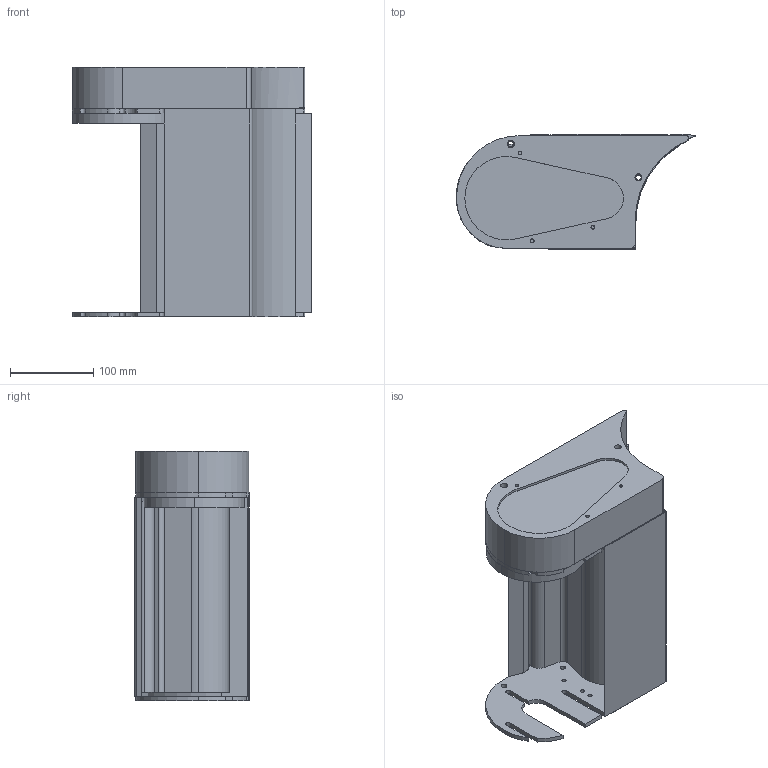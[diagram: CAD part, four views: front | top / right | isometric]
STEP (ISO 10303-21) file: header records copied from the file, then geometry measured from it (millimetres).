
FILE_DESCRIPTION (( 'STEP AP214' ), '1' );
FILE_NAME ('F2 750 TMGR NTB.step', '2017-04-05T07:35:38', ( '' ), ( '' ), 'SwSTEP 2.0', 'SolidWorks 2015', '' );
FILE_SCHEMA (( 'AUTOMOTIVE_DESIGN' ));
Length unit declared in the file: millimetre
Products named in the file (1): F2 750 TMGR NTB
Bounding box: 286.35 x 137.58 x 299 mm (x, y, z)
Volume: 2888638.7 mm3; surface area: 565534.5 mm2
Topology: 9 solids, 9 shells, 368 faces, 1042 edges, 694 vertices
Faces by surface type: cylinder 201, plane 167
Entity records: 12535 total; most frequent: DIRECTION 2186, CARTESIAN_POINT 2105, ORIENTED_EDGE 2084, EDGE_CURVE 1042, AXIS2_PLACEMENT_3D 775, VERTEX_POINT 694, VECTOR 636, LINE 636
